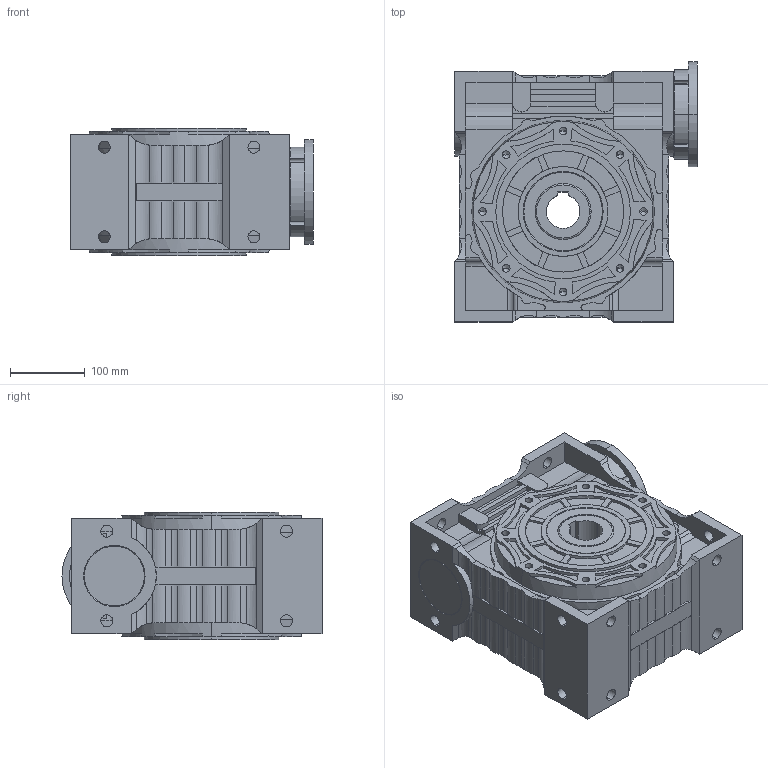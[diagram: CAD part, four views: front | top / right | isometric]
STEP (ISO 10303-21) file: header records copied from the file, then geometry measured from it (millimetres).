
FILE_DESCRIPTION (( 'STEP AP203' ), '1' );
FILE_NAME ('NMRV130-90B14.STEP', '2016-11-23T08:00:20', ( '微软中国' ), ( '微软中国' ), 'SwSTEP 2.0', 'SolidWorks 2012', '' );
FILE_SCHEMA (( 'CONFIG_CONTROL_DESIGN' ));
Length unit declared in the file: millimetre
Products named in the file (1): NMRV130-90B14
Bounding box: 324.5 x 347.5 x 170 mm (x, y, z)
Volume: 5159867.1 mm3; surface area: 1001623.3 mm2
Topology: 2 solids, 2 shells, 1024 faces, 2802 edges, 1817 vertices
Faces by surface type: plane 496, cylinder 478, cone 42, torus 8
Entity records: 33177 total; most frequent: CARTESIAN_POINT 6323, DIRECTION 5908, ORIENTED_EDGE 5540, EDGE_CURVE 2770, AXIS2_PLACEMENT_3D 2232, VERTEX_POINT 1817, VECTOR 1444, LINE 1444
